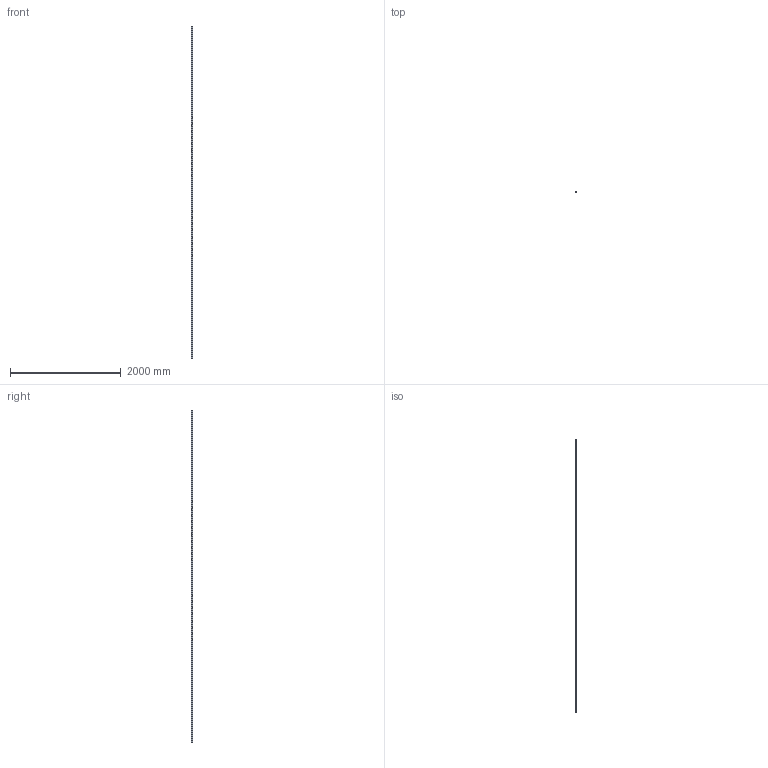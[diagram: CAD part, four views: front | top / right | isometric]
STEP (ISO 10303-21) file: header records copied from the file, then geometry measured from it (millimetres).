
FILE_DESCRIPTION (( 'STEP AP214' ), '1' );
FILE_NAME ('7641520.STEP', '2024-01-25T10:53:48', ( '' ), ( '' ), 'SwSTEP 2.0', 'SolidWorks 2022', '' );
FILE_SCHEMA (( 'AUTOMOTIVE_DESIGN' ));
Length unit declared in the file: millimetre
Products named in the file (1): 7641520
Bounding box: 25 x 25 x 6000 mm (x, y, z)
Volume: 811234.5 mm3; surface area: 1081916.4 mm2
Topology: 1 solids, 1 shells, 18 faces, 48 edges, 32 vertices
Faces by surface type: plane 10, cylinder 8
Entity records: 606 total; most frequent: DIRECTION 102, CARTESIAN_POINT 99, ORIENTED_EDGE 96, EDGE_CURVE 48, AXIS2_PLACEMENT_3D 35, LINE 32, VECTOR 32, VERTEX_POINT 32
